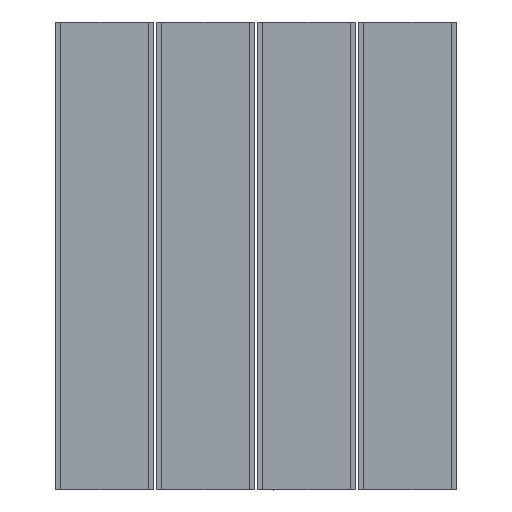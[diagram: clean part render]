
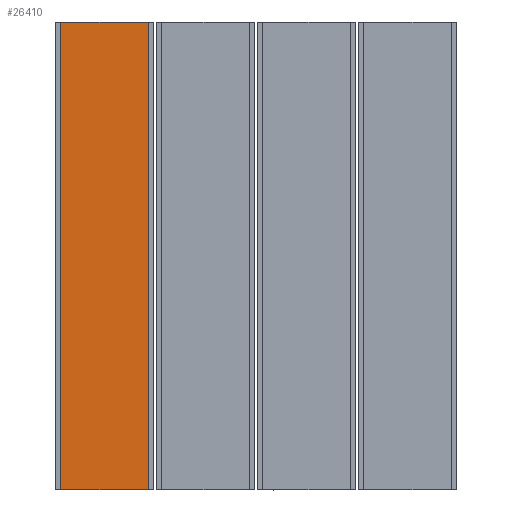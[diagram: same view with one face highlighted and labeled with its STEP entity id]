
A CAD part, top view. The second image highlights one B-rep face of the part: STEP entity #26410.
In plain terms, the highlighted planar face has unit normal (0, 0, 1).
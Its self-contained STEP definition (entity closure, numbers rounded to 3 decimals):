
#780 = CARTESIAN_POINT ( 'NONE',  ( -102.601, -185.4, -6.865 ) ) ;
#1871 = DIRECTION ( 'NONE',  ( -1., 0., 0. ) ) ;
#2530 = DIRECTION ( 'NONE',  ( 0., 0., -1. ) ) ;
#3226 = VERTEX_POINT ( 'NONE', #30211 ) ;
#3651 = EDGE_CURVE ( 'NONE', #15488, #27783, #21601, .T. ) ;
#4648 = CARTESIAN_POINT ( 'NONE',  ( -137.399, -185.4, -6.865 ) ) ;
#4931 = DIRECTION ( 'NONE',  ( 0., 1., 0. ) ) ;
#5485 = VECTOR ( 'NONE', #4931, 1000. ) ;
#7129 = LINE ( 'NONE', #780, #13545 ) ;
#8007 = CARTESIAN_POINT ( 'NONE',  ( -137.399, -185.4, -6.865 ) ) ;
#8780 = CARTESIAN_POINT ( 'NONE',  ( -102.601, 0., -6.865 ) ) ;
#9287 = LINE ( 'NONE', #21990, #10706 ) ;
#10706 = VECTOR ( 'NONE', #12571, 1000. ) ;
#12571 = DIRECTION ( 'NONE',  ( -1., 0., 0. ) ) ;
#13545 = VECTOR ( 'NONE', #26832, 1000. ) ;
#13702 = ORIENTED_EDGE ( 'NONE', *, *, #38002, .F. ) ;
#15055 = FACE_OUTER_BOUND ( 'NONE', #41643, .T. ) ;
#15479 = CARTESIAN_POINT ( 'NONE',  ( -137.399, 0., -6.865 ) ) ;
#15488 = VERTEX_POINT ( 'NONE', #4648 ) ;
#16340 = EDGE_CURVE ( 'NONE', #22336, #27783, #36257, .T. ) ;
#18286 = AXIS2_PLACEMENT_3D ( 'NONE', #28357, #2530, #1871 ) ;
#19469 = ORIENTED_EDGE ( 'NONE', *, *, #16340, .T. ) ;
#21601 = LINE ( 'NONE', #8007, #5485 ) ;
#21990 = CARTESIAN_POINT ( 'NONE',  ( -120., -185.4, -6.865 ) ) ;
#22336 = VERTEX_POINT ( 'NONE', #8780 ) ;
#25926 = CARTESIAN_POINT ( 'NONE',  ( -120., 0., -6.865 ) ) ;
#26410 = ADVANCED_FACE ( 'NONE', ( #15055 ), #42398, .F. ) ;
#26832 = DIRECTION ( 'NONE',  ( 0., 1., 0. ) ) ;
#27783 = VERTEX_POINT ( 'NONE', #15479 ) ;
#28249 = ORIENTED_EDGE ( 'NONE', *, *, #3651, .F. ) ;
#28357 = CARTESIAN_POINT ( 'NONE',  ( -120., -185.4, -6.865 ) ) ;
#30211 = CARTESIAN_POINT ( 'NONE',  ( -102.601, -185.4, -6.865 ) ) ;
#32807 = VECTOR ( 'NONE', #43064, 1000. ) ;
#36257 = LINE ( 'NONE', #25926, #32807 ) ;
#36968 = EDGE_CURVE ( 'NONE', #3226, #22336, #7129, .T. ) ;
#38002 = EDGE_CURVE ( 'NONE', #3226, #15488, #9287, .T. ) ;
#40209 = ORIENTED_EDGE ( 'NONE', *, *, #36968, .T. ) ;
#41643 = EDGE_LOOP ( 'NONE', ( #19469, #28249, #13702, #40209 ) ) ;
#42398 = PLANE ( 'NONE',  #18286 ) ;
#43064 = DIRECTION ( 'NONE',  ( -1., 0., 0. ) ) ;
